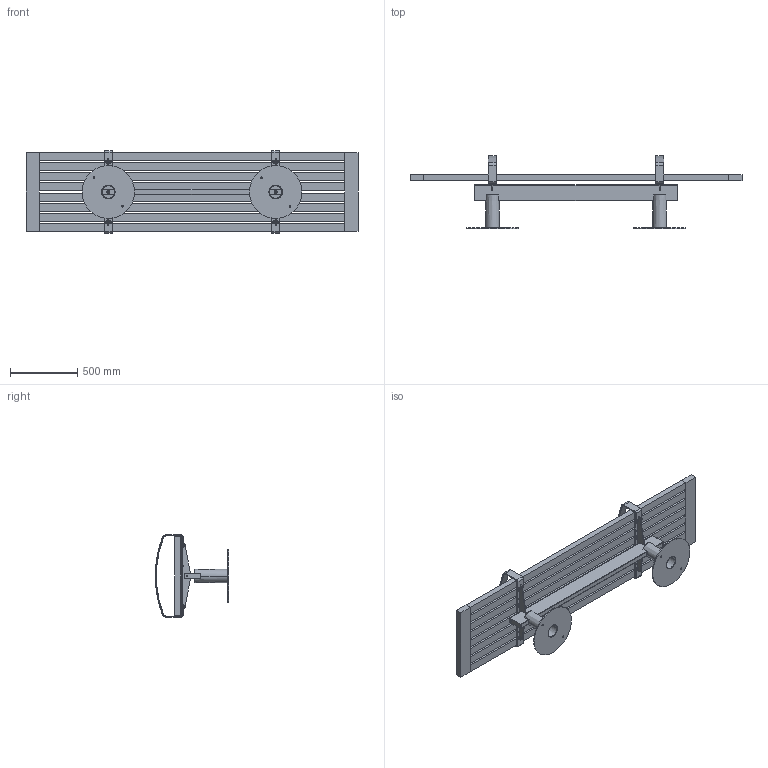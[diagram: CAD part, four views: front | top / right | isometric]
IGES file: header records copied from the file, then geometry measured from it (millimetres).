
Start section: SolidWorks IGES file using analytic representation for surfaces
Global section: file name: C:\SANTACOLE_PDM\Proyectos Catálogo\PROD-P05-013 -- NU\6_Técnico comercial\3D WEB\Nueva carpeta\NU 2,46m sin respaldo.IGS; native system: SolidWorks 2013; preprocessor: SolidWorks 2013; author: MarioV; date: 150410.133129; units: millimetre
Bounding box: 2460 x 543.54 x 609 mm (x, y, z)
Volume: 58575679.3 mm3; surface area: 6765753.3 mm2
Topology: 67 solids, 67 shells, 2353 faces, 6074 edges, 3940 vertices
Faces by surface type: plane 1434, revolution 647, bspline 272
